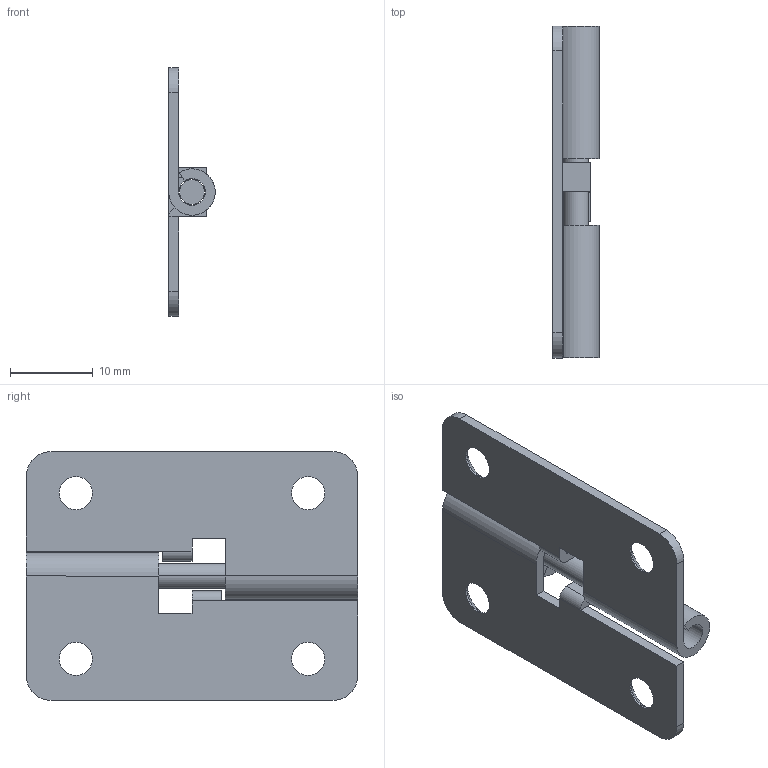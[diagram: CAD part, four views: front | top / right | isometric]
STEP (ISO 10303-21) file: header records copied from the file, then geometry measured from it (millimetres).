
FILE_DESCRIPTION (( 'STEP AP203' ), '1' );
FILE_NAME ('DEH-45-2R.STEP', '2013-08-29T06:11:47', ( '中村　妙子' ), ( 'ＮＴ設計' ), 'SwSTEP 2.0', 'SolidWorks 2002296', '' );
FILE_SCHEMA (( 'CONFIG_CONTROL_DESIGN' ));
Length unit declared in the file: millimetre
Products named in the file (3): DEH-45-2R; DEH-45-2R-1_蹬怮椔; DEH-45-2R-2_蹬怮椔
Assembly tree (2 placements, depth 2):
  DEH-45-2R
    DEH-45-2R-1_蹬怮椔
    DEH-45-2R-2_蹬怮椔
Bounding box: 5.6 x 40 x 30 mm (x, y, z)
Volume: 1772.6 mm3; surface area: 3349.4 mm2
Topology: 3 solids, 3 shells, 64 faces, 160 edges, 102 vertices
Faces by surface type: plane 30, cylinder 24, cone 10
Entity records: 2229 total; most frequent: DIRECTION 356, CARTESIAN_POINT 331, ORIENTED_EDGE 320, EDGE_CURVE 160, AXIS2_PLACEMENT_3D 127, VERTEX_POINT 102, LINE 102, VECTOR 102
